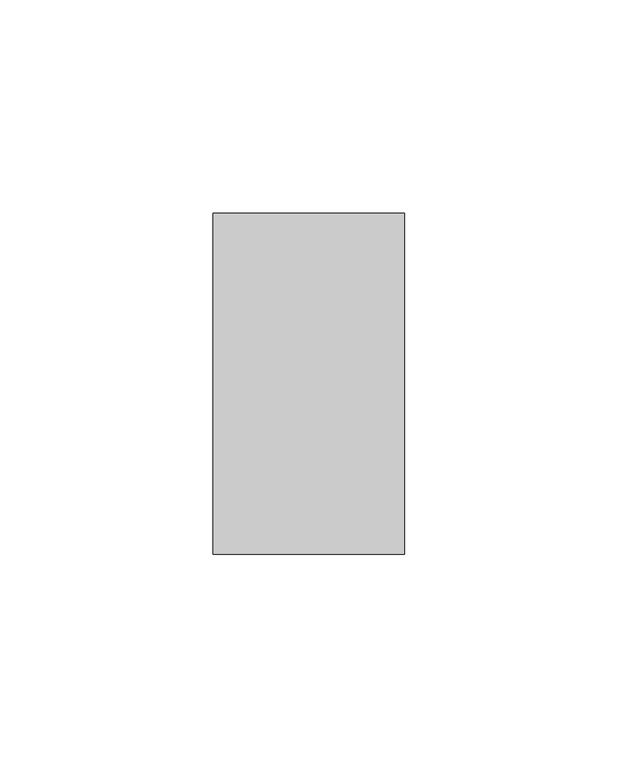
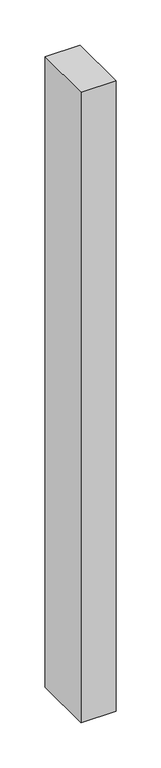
"""IFC4 building model written with IfcOpenShell, lengths in millimetres: member geometry, Obdélníková příčel : VERTI ELEMENT - vertikální."""

from ifc_helpers import new_model, si_unit, frame, origin, place, context, project, spatial, polyline, outline, extrude, source, transform, mapped, element, save


def member_4acde7b6(model_context):
    return source(origin(), model_context, "Body", "SweptSolid", [
        extrude(outline(polyline([(-45.0, 40.0), (0.0, 40.0), (0.0, -40.0), (-45.0, -40.0), (-45.0, 40.0)])), frame((0.0, 0.0, -855.0), z_axis=(0.0, 0.0, 1.0), x_axis=(1.0, 0.0, 0.0)), (0.0, 0.0, 1.0), 855.0),
    ])


if __name__ == "__main__":
    model = new_model("IFC4")
    model_context = context("Model", 3, world=origin())
    ifc_project = project(units=[si_unit("LENGTHUNIT", "METRE", prefix="MILLI")], contexts=[model_context])
    site = spatial("IfcSite", under=ifc_project)
    building = spatial("IfcBuilding", under=site)
    placement = place(None, origin())
    member_shape = member_4acde7b6(model_context)
    element("IfcMember", 1, ObjectType="Obdélníková příčel : VERTI ELEMENT - vertikální", at=placement, inside=building, context=model_context, shape_type="MappedRepresentation", body=[
        mapped(member_shape, transform((0.0, 0.0, 0.0), x_axis=(1.0, 0.0, 0.0), y_axis=(0.0, 1.0, 0.0), z_axis=(0.0, 0.0, 1.0))),
    ])
    save(model, "model.ifc")
